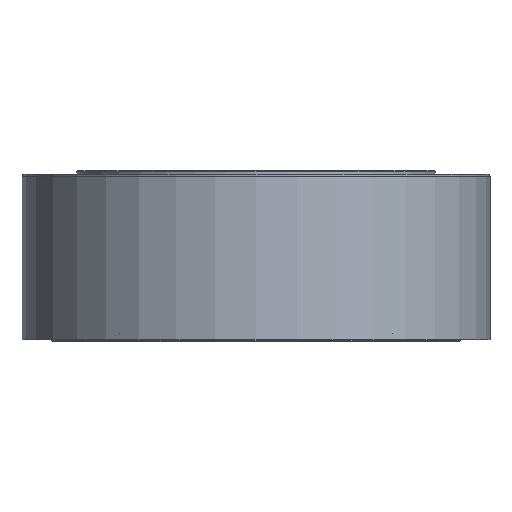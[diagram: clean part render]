
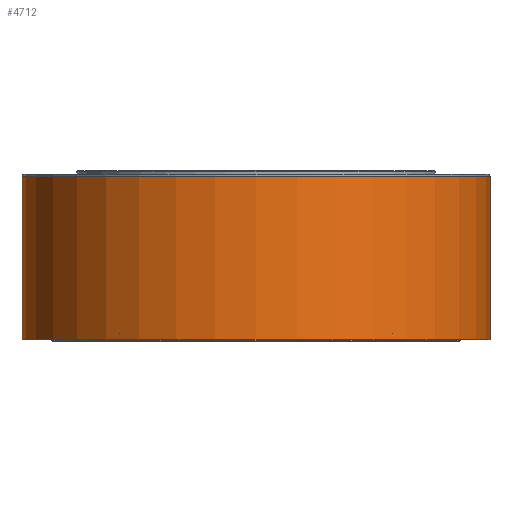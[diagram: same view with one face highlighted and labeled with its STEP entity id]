
A CAD part, front view. The second image highlights one B-rep face of the part: STEP entity #4712.
In plain terms, the highlighted cylindrical face has radius 180 mm (diameter 360 mm), a partial arc.
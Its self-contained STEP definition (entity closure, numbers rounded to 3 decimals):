
#387=CARTESIAN_POINT('',(0.,0.,126.5));
#388=DIRECTION('',(0.,0.,1.));
#389=DIRECTION('',(-1.,0.,0.));
#390=AXIS2_PLACEMENT_3D('',#387,#388,#389);
#413=DIRECTION('',(0.,0.,-1.));
#414=VECTOR('',#413,125.5);
#415=CARTESIAN_POINT('',(-180.,0.,126.5));
#416=LINE('',#415,#414);
#417=DIRECTION('',(0.,0.,1.));
#418=VECTOR('',#417,125.5);
#419=CARTESIAN_POINT('',(180.,0.,1.));
#420=LINE('',#419,#418);
#2458=CARTESIAN_POINT('',(0.,0.,1.));
#2459=DIRECTION('',(0.,0.,-1.));
#2460=DIRECTION('',(1.,0.,0.));
#2461=AXIS2_PLACEMENT_3D('',#2458,#2459,#2460);
#3796=CARTESIAN_POINT('',(180.,0.,126.5));
#3797=CARTESIAN_POINT('',(-180.,0.,126.5));
#3798=VERTEX_POINT('',#3796);
#3799=VERTEX_POINT('',#3797);
#4386=CARTESIAN_POINT('',(-180.,0.,1.));
#4387=CARTESIAN_POINT('',(180.,0.,1.));
#4388=VERTEX_POINT('',#4386);
#4389=VERTEX_POINT('',#4387);
#4698=CARTESIAN_POINT('',(0.,0.,126.5));
#4699=DIRECTION('',(0.,0.,-1.));
#4700=DIRECTION('',(-1.,0.,0.));
#4701=AXIS2_PLACEMENT_3D('',#4698,#4699,#4700);
#4702=CYLINDRICAL_SURFACE('',#4701,180.);
#4704=ORIENTED_EDGE('',*,*,#4703,.F.);
#4706=ORIENTED_EDGE('',*,*,#4705,.T.);
#4708=ORIENTED_EDGE('',*,*,#4707,.F.);
#4709=ORIENTED_EDGE('',*,*,#4686,.T.);
#4710=EDGE_LOOP('',(#4704,#4706,#4708,#4709));
#4711=FACE_OUTER_BOUND('',#4710,.F.);
#4712=ADVANCED_FACE('',(#4711),#4702,.T.);
#391=CIRCLE('',#390,180.);
#2462=CIRCLE('',#2461,180.);
#4686=EDGE_CURVE('',#3799,#3798,#391,.T.);
#4703=EDGE_CURVE('',#4389,#3798,#420,.T.);
#4705=EDGE_CURVE('',#4389,#4388,#2462,.T.);
#4707=EDGE_CURVE('',#3799,#4388,#416,.T.);
